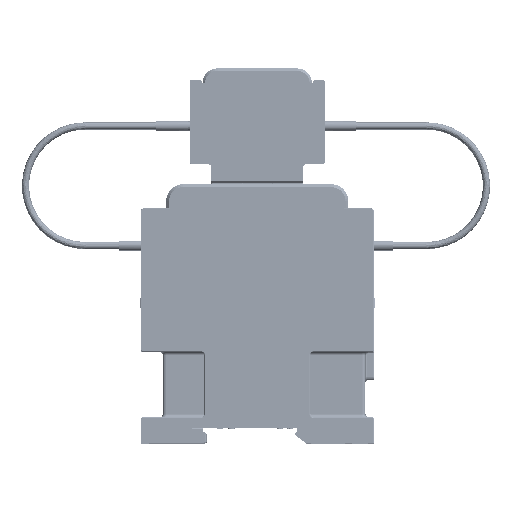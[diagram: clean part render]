
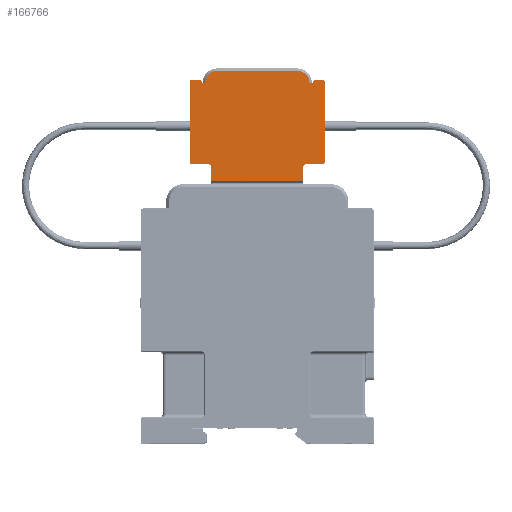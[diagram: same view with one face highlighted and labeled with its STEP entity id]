
A CAD part, top view. The second image highlights one B-rep face of the part: STEP entity #166766.
In plain terms, the highlighted planar face has unit normal (0, 0, 1).
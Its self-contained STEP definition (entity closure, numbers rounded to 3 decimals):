
#20146=DIRECTION('',(1.,0.,0.));
#20147=VECTOR('',#20146,1.1);
#20148=CARTESIAN_POINT('',(-19.5,80.2,27.8));
#20149=LINE('',#20148,#20147);
#20150=CARTESIAN_POINT('',(-13.95,80.2,27.8));
#20151=DIRECTION('',(0.,0.,1.));
#20152=DIRECTION('',(0.,1.,0.));
#20153=AXIS2_PLACEMENT_3D('',#20150,#20151,#20152);
#20155=DIRECTION('',(-1.,0.,0.));
#20156=VECTOR('',#20155,27.9);
#20157=CARTESIAN_POINT('',(13.95,84.65,27.8));
#20158=LINE('',#20157,#20156);
#20159=CARTESIAN_POINT('',(13.95,80.2,27.8));
#20160=DIRECTION('',(0.,0.,1.));
#20161=DIRECTION('',(1.,0.,0.));
#20162=AXIS2_PLACEMENT_3D('',#20159,#20160,#20161);
#20164=DIRECTION('',(1.,0.,0.));
#20165=VECTOR('',#20164,1.1);
#20166=CARTESIAN_POINT('',(18.4,80.2,27.8));
#20167=LINE('',#20166,#20165);
#20168=DIRECTION('',(0.,-1.,0.));
#20169=VECTOR('',#20168,0.3);
#20170=CARTESIAN_POINT('',(19.5,80.5,27.8));
#20171=LINE('',#20170,#20169);
#20172=CARTESIAN_POINT('',(20.5,80.5,27.8));
#20173=DIRECTION('',(0.,0.,1.));
#20174=DIRECTION('',(0.,1.,0.));
#20175=AXIS2_PLACEMENT_3D('',#20172,#20173,#20174);
#20177=CARTESIAN_POINT('',(22.8,80.5,27.8));
#20178=DIRECTION('',(0.,0.,1.));
#20179=DIRECTION('',(1.,0.,0.));
#20180=AXIS2_PLACEMENT_3D('',#20177,#20178,#20179);
#20182=CARTESIAN_POINT('',(22.8,52.9,27.8));
#20183=DIRECTION('',(0.,0.,1.));
#20184=DIRECTION('',(0.,-1.,0.));
#20185=AXIS2_PLACEMENT_3D('',#20182,#20183,#20184);
#20187=DIRECTION('',(1.,0.,0.));
#20188=VECTOR('',#20187,5.6);
#20189=CARTESIAN_POINT('',(17.2,51.9,27.8));
#20190=LINE('',#20189,#20188);
#20191=DIRECTION('',(0.,1.,0.));
#20192=VECTOR('',#20191,5.);
#20193=CARTESIAN_POINT('',(16.2,45.9,27.8));
#20194=LINE('',#20193,#20192);
#20195=DIRECTION('',(-1.,0.,0.));
#20196=VECTOR('',#20195,32.4);
#20197=CARTESIAN_POINT('',(16.2,45.9,27.8));
#20198=LINE('',#20197,#20196);
#20199=DIRECTION('',(0.,1.,0.));
#20200=VECTOR('',#20199,5.);
#20201=CARTESIAN_POINT('',(-16.2,45.9,27.8));
#20202=LINE('',#20201,#20200);
#20203=DIRECTION('',(1.,0.,0.));
#20204=VECTOR('',#20203,5.6);
#20205=CARTESIAN_POINT('',(-22.8,51.9,27.8));
#20206=LINE('',#20205,#20204);
#20207=CARTESIAN_POINT('',(-22.8,52.9,27.8));
#20208=DIRECTION('',(0.,0.,1.));
#20209=DIRECTION('',(-1.,0.,0.));
#20210=AXIS2_PLACEMENT_3D('',#20207,#20208,#20209);
#20212=DIRECTION('',(0.,1.,0.));
#20213=VECTOR('',#20212,27.6);
#20214=CARTESIAN_POINT('',(-23.8,52.9,27.8));
#20215=LINE('',#20214,#20213);
#20216=CARTESIAN_POINT('',(-22.8,80.5,27.8));
#20217=DIRECTION('',(0.,0.,1.));
#20218=DIRECTION('',(0.,1.,0.));
#20219=AXIS2_PLACEMENT_3D('',#20216,#20217,#20218);
#20221=CARTESIAN_POINT('',(-20.5,80.5,27.8));
#20222=DIRECTION('',(0.,0.,1.));
#20223=DIRECTION('',(1.,0.,0.));
#20224=AXIS2_PLACEMENT_3D('',#20221,#20222,#20223);
#20226=DIRECTION('',(0.,-1.,0.));
#20227=VECTOR('',#20226,0.3);
#20228=CARTESIAN_POINT('',(-19.5,80.5,27.8));
#20229=LINE('',#20228,#20227);
#20376=DIRECTION('',(1.,0.,0.));
#20377=VECTOR('',#20376,2.3);
#20378=CARTESIAN_POINT('',(-22.8,81.5,27.8));
#20379=LINE('',#20378,#20377);
#20456=CARTESIAN_POINT('',(-17.2,50.9,27.8));
#20457=DIRECTION('',(0.,0.,-1.));
#20458=DIRECTION('',(0.,1.,0.));
#20459=AXIS2_PLACEMENT_3D('',#20456,#20457,#20458);
#23240=CARTESIAN_POINT('',(17.2,50.9,27.8));
#23241=DIRECTION('',(0.,0.,-1.));
#23242=DIRECTION('',(-1.,0.,0.));
#23243=AXIS2_PLACEMENT_3D('',#23240,#23241,#23242);
#23267=DIRECTION('',(0.,1.,0.));
#23268=VECTOR('',#23267,27.6);
#23269=CARTESIAN_POINT('',(23.8,52.9,27.8));
#23270=LINE('',#23269,#23268);
#23850=DIRECTION('',(1.,0.,0.));
#23851=VECTOR('',#23850,2.3);
#23852=CARTESIAN_POINT('',(20.5,81.5,27.8));
#23853=LINE('',#23852,#23851);
#133971=CARTESIAN_POINT('',(19.5,80.2,27.8));
#133973=VERTEX_POINT('',#133971);
#134008=CARTESIAN_POINT('',(-19.5,80.2,27.8));
#134010=VERTEX_POINT('',#134008);
#134913=CARTESIAN_POINT('',(22.8,51.9,27.8));
#134915=VERTEX_POINT('',#134913);
#134917=CARTESIAN_POINT('',(23.8,52.9,27.8));
#134918=VERTEX_POINT('',#134917);
#134921=CARTESIAN_POINT('',(-23.8,52.9,27.8));
#134922=CARTESIAN_POINT('',(-22.8,51.9,27.8));
#134923=VERTEX_POINT('',#134921);
#134924=VERTEX_POINT('',#134922);
#134993=CARTESIAN_POINT('',(-22.8,81.5,27.8));
#134994=CARTESIAN_POINT('',(-23.8,80.5,27.8));
#134995=VERTEX_POINT('',#134993);
#134996=VERTEX_POINT('',#134994);
#135005=CARTESIAN_POINT('',(23.8,80.5,27.8));
#135006=VERTEX_POINT('',#135005);
#135007=CARTESIAN_POINT('',(22.8,81.5,27.8));
#135008=VERTEX_POINT('',#135007);
#135647=CARTESIAN_POINT('',(-16.2,45.9,27.8));
#135649=VERTEX_POINT('',#135647);
#135650=CARTESIAN_POINT('',(16.2,45.9,27.8));
#135651=VERTEX_POINT('',#135650);
#135655=CARTESIAN_POINT('',(17.2,51.9,27.8));
#135657=VERTEX_POINT('',#135655);
#135659=CARTESIAN_POINT('',(16.2,50.9,27.8));
#135661=VERTEX_POINT('',#135659);
#135670=CARTESIAN_POINT('',(-17.2,51.9,27.8));
#135672=VERTEX_POINT('',#135670);
#135674=CARTESIAN_POINT('',(-16.2,50.9,27.8));
#135676=VERTEX_POINT('',#135674);
#135738=CARTESIAN_POINT('',(-19.5,80.5,27.8));
#135739=VERTEX_POINT('',#135738);
#135740=CARTESIAN_POINT('',(-20.5,81.5,27.8));
#135741=VERTEX_POINT('',#135740);
#135742=CARTESIAN_POINT('',(20.5,81.5,27.8));
#135743=CARTESIAN_POINT('',(19.5,80.5,27.8));
#135744=VERTEX_POINT('',#135742);
#135745=VERTEX_POINT('',#135743);
#144929=CARTESIAN_POINT('',(13.95,84.65,27.8));
#144930=CARTESIAN_POINT('',(-13.95,84.65,27.8));
#144931=VERTEX_POINT('',#144929);
#144932=VERTEX_POINT('',#144930);
#145329=CARTESIAN_POINT('',(-18.4,80.2,27.8));
#145330=VERTEX_POINT('',#145329);
#145331=CARTESIAN_POINT('',(18.4,80.2,27.8));
#145332=VERTEX_POINT('',#145331);
#166713=CARTESIAN_POINT('',(-23.8,45.1,27.8));
#166714=DIRECTION('',(0.,0.,1.));
#166715=DIRECTION('',(1.,0.,0.));
#166716=AXIS2_PLACEMENT_3D('',#166713,#166714,#166715);
#166717=PLANE('',#166716);
#166719=ORIENTED_EDGE('',*,*,#166718,.T.);
#166721=ORIENTED_EDGE('',*,*,#166720,.F.);
#166723=ORIENTED_EDGE('',*,*,#166722,.F.);
#166725=ORIENTED_EDGE('',*,*,#166724,.F.);
#166727=ORIENTED_EDGE('',*,*,#166726,.T.);
#166729=ORIENTED_EDGE('',*,*,#166728,.F.);
#166731=ORIENTED_EDGE('',*,*,#166730,.F.);
#166733=ORIENTED_EDGE('',*,*,#166732,.T.);
#166735=ORIENTED_EDGE('',*,*,#166734,.F.);
#166737=ORIENTED_EDGE('',*,*,#166736,.F.);
#166739=ORIENTED_EDGE('',*,*,#166738,.F.);
#166741=ORIENTED_EDGE('',*,*,#166740,.F.);
#166743=ORIENTED_EDGE('',*,*,#166742,.F.);
#166745=ORIENTED_EDGE('',*,*,#166744,.F.);
#166746=ORIENTED_EDGE('',*,*,#166705,.T.);
#166747=ORIENTED_EDGE('',*,*,#165926,.T.);
#166749=ORIENTED_EDGE('',*,*,#166748,.F.);
#166751=ORIENTED_EDGE('',*,*,#166750,.F.);
#166753=ORIENTED_EDGE('',*,*,#166752,.F.);
#166755=ORIENTED_EDGE('',*,*,#166754,.T.);
#166757=ORIENTED_EDGE('',*,*,#166756,.F.);
#166759=ORIENTED_EDGE('',*,*,#166758,.T.);
#166761=ORIENTED_EDGE('',*,*,#166760,.F.);
#166763=ORIENTED_EDGE('',*,*,#166762,.T.);
#166764=EDGE_LOOP('',(#166719,#166721,#166723,#166725,#166727,#166729,#166731,
#166733,#166735,#166737,#166739,#166741,#166743,#166745,#166746,#166747,#166749,
#166751,#166753,#166755,#166757,#166759,#166761,#166763));
#166765=FACE_OUTER_BOUND('',#166764,.F.);
#166766=ADVANCED_FACE('',(#166765),#166717,.T.);
#20154=CIRCLE('',#20153,4.45);
#20163=CIRCLE('',#20162,4.45);
#20176=CIRCLE('',#20175,1.);
#20181=CIRCLE('',#20180,1.);
#20186=CIRCLE('',#20185,1.);
#20211=CIRCLE('',#20210,1.);
#20220=CIRCLE('',#20219,1.);
#20225=CIRCLE('',#20224,1.);
#20460=CIRCLE('',#20459,1.);
#23244=CIRCLE('',#23243,1.);
#165926=EDGE_CURVE('',#135649,#135676,#20202,.T.);
#166705=EDGE_CURVE('',#135651,#135649,#20198,.T.);
#166718=EDGE_CURVE('',#134010,#145330,#20149,.T.);
#166720=EDGE_CURVE('',#144932,#145330,#20154,.T.);
#166722=EDGE_CURVE('',#144931,#144932,#20158,.T.);
#166724=EDGE_CURVE('',#145332,#144931,#20163,.T.);
#166726=EDGE_CURVE('',#145332,#133973,#20167,.T.);
#166728=EDGE_CURVE('',#135745,#133973,#20171,.T.);
#166730=EDGE_CURVE('',#135744,#135745,#20176,.T.);
#166732=EDGE_CURVE('',#135744,#135008,#23853,.T.);
#166734=EDGE_CURVE('',#135006,#135008,#20181,.T.);
#166736=EDGE_CURVE('',#134918,#135006,#23270,.T.);
#166738=EDGE_CURVE('',#134915,#134918,#20186,.T.);
#166740=EDGE_CURVE('',#135657,#134915,#20190,.T.);
#166742=EDGE_CURVE('',#135661,#135657,#23244,.T.);
#166744=EDGE_CURVE('',#135651,#135661,#20194,.T.);
#166748=EDGE_CURVE('',#135672,#135676,#20460,.T.);
#166750=EDGE_CURVE('',#134924,#135672,#20206,.T.);
#166752=EDGE_CURVE('',#134923,#134924,#20211,.T.);
#166754=EDGE_CURVE('',#134923,#134996,#20215,.T.);
#166756=EDGE_CURVE('',#134995,#134996,#20220,.T.);
#166758=EDGE_CURVE('',#134995,#135741,#20379,.T.);
#166760=EDGE_CURVE('',#135739,#135741,#20225,.T.);
#166762=EDGE_CURVE('',#135739,#134010,#20229,.T.);
